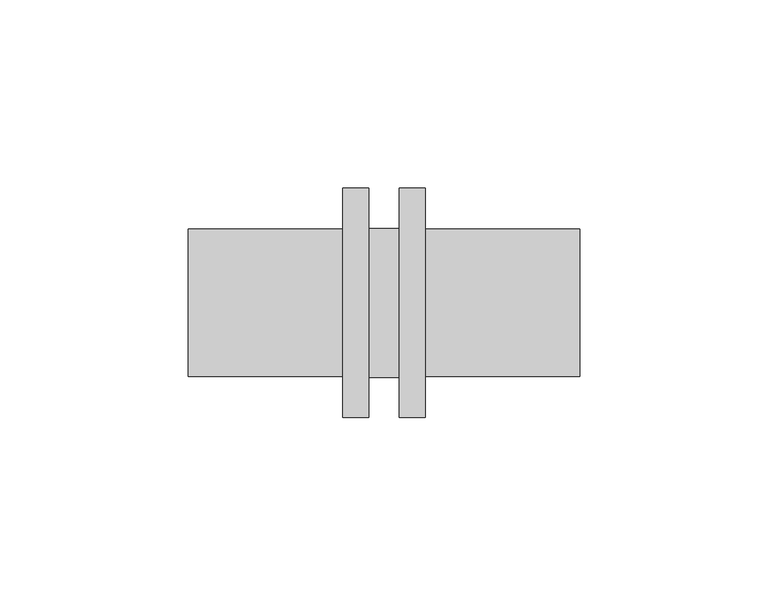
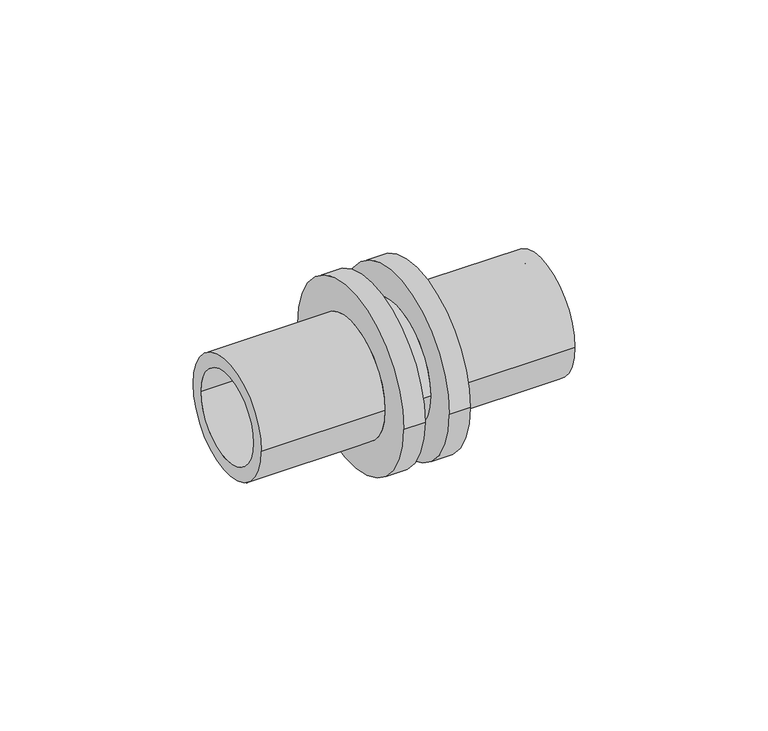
"""IFC4 building model written with IfcOpenShell, lengths in millimetres: pipe fitting geometry, RAUTITAN_Union_LX : RTI LX U DE."""

from ifc_helpers import new_model, si_unit, frame, origin, place, context, project, spatial, polyline, circle_curve, source, transform, mapped, element, save
from ifc_brep_helpers import plane_surface, cylinder_surface, revolved_surface, advanced_brep


def pipe_fitting_a2244846(model_context):
    return source(origin(), model_context, "Body", "AdvancedBrep", [
        advanced_brep(
        [(-52.0, 15.0, 0.0), (-52.0, -15.0, 0.0), (52.0, -15.0, 0.0), (52.0, 15.0, 0.0), (-11.0, 19.6, 0.0), (-11.0, -19.6, 0.0), (-52.0, -19.6, 0.0), (-52.0, 19.6, 0.0), (-4.0, 30.5, 0.0), (-4.0, -30.5, 0.0), (-11.0, -30.5, 0.0), (-11.0, 30.5, 0.0), (4.0, 19.8, 0.0), (4.0, -19.8, 0.0), (-4.0, -19.8, 0.0), (-4.0, 19.8, 0.0), (11.0, 30.5, 0.0), (11.0, -30.5, 0.0), (4.0, -30.5, 0.0), (4.0, 30.5, 0.0), (52.0, 19.6, 0.0), (52.0, -19.6, 0.0), (11.0, -19.6, 0.0), (11.0, 19.6, 0.0)],
        [
            (0, 1, circle_curve(frame((-52.0, 0.0, 0.0), z_axis=(-1.0, 0.0, 0.0), x_axis=(0.0, -1.0, 0.0)), 15.0)),
            (1, 2),
            (2, 3, circle_curve(frame((52.0, 0.0, 0.0), z_axis=(1.0, 0.0, 0.0), x_axis=(0.0, -1.0, 0.0)), 15.0)),
            (3, 0),
            (4, 5, circle_curve(frame((-11.0, 0.0, 0.0), z_axis=(-1.0, 0.0, 0.0), x_axis=(0.0, -1.0, 0.0)), 19.6)),
            (5, 6),
            (6, 7, circle_curve(frame((-52.0, 0.0, 0.0), z_axis=(1.0, 0.0, 0.0), x_axis=(0.0, -1.0, 0.0)), 19.6)),
            (7, 4),
            (8, 9, circle_curve(frame((-4.0, 0.0, 0.0), z_axis=(-1.0, 0.0, 0.0), x_axis=(0.0, -1.0, 0.0)), 30.5)),
            (9, 10),
            (10, 11, circle_curve(frame((-11.0, 0.0, 0.0), z_axis=(1.0, 0.0, 0.0), x_axis=(0.0, -1.0, 0.0)), 30.5)),
            (11, 8),
            (12, 13, circle_curve(frame((4.0, 0.0, 0.0), z_axis=(-1.0, 0.0, 0.0), x_axis=(0.0, -1.0, 0.0)), 19.8)),
            (13, 14),
            (14, 15, circle_curve(frame((-4.0, 0.0, 0.0), z_axis=(1.0, 0.0, 0.0), x_axis=(0.0, -1.0, 0.0)), 19.8)),
            (15, 12),
            (16, 17, circle_curve(frame((11.0, 0.0, 0.0), z_axis=(-1.0, 0.0, 0.0), x_axis=(0.0, -1.0, 0.0)), 30.5)),
            (17, 18),
            (18, 19, circle_curve(frame((4.0, 0.0, 0.0), z_axis=(1.0, 0.0, 0.0), x_axis=(0.0, -1.0, 0.0)), 30.5)),
            (19, 16),
            (20, 21, circle_curve(frame((52.0, 0.0, 0.0), z_axis=(-1.0, 0.0, 0.0), x_axis=(0.0, -1.0, 0.0)), 19.6)),
            (21, 22),
            (22, 23, circle_curve(frame((11.0, 0.0, 0.0), z_axis=(1.0, 0.0, 0.0), x_axis=(0.0, -1.0, 0.0)), 19.6)),
            (23, 20),
            (1, 0, circle_curve(frame((-52.0, 0.0, 0.0), z_axis=(-1.0, 0.0, 0.0), x_axis=(0.0, 1.0, 0.0)), 15.0)),
            (3, 2, circle_curve(frame((52.0, 0.0, 0.0), z_axis=(1.0, 0.0, 0.0), x_axis=(0.0, 1.0, 0.0)), 15.0)),
            (6, 7, circle_curve(frame((-52.0, 0.0, 0.0), z_axis=(-1.0, 0.0, 0.0), x_axis=(0.0, 1.0, 0.0)), 19.6)),
            (5, 4, circle_curve(frame((-11.0, 0.0, 0.0), z_axis=(-1.0, 0.0, 0.0), x_axis=(0.0, 1.0, 0.0)), 19.6)),
            (10, 11, circle_curve(frame((-11.0, 0.0, 0.0), z_axis=(-1.0, 0.0, 0.0), x_axis=(0.0, 1.0, 0.0)), 30.5)),
            (9, 8, circle_curve(frame((-4.0, 0.0, 0.0), z_axis=(-1.0, 0.0, 0.0), x_axis=(0.0, 1.0, 0.0)), 30.5)),
            (14, 15, circle_curve(frame((-4.0, 0.0, 0.0), z_axis=(-1.0, 0.0, 0.0), x_axis=(0.0, 1.0, 0.0)), 19.8)),
            (13, 12, circle_curve(frame((4.0, 0.0, 0.0), z_axis=(-1.0, 0.0, 0.0), x_axis=(0.0, 1.0, 0.0)), 19.8)),
            (18, 19, circle_curve(frame((4.0, 0.0, 0.0), z_axis=(-1.0, 0.0, 0.0), x_axis=(0.0, 1.0, 0.0)), 30.5)),
            (17, 16, circle_curve(frame((11.0, 0.0, 0.0), z_axis=(-1.0, 0.0, 0.0), x_axis=(0.0, 1.0, 0.0)), 30.5)),
            (22, 23, circle_curve(frame((11.0, 0.0, 0.0), z_axis=(-1.0, 0.0, 0.0), x_axis=(0.0, 1.0, 0.0)), 19.6)),
            (21, 20, circle_curve(frame((52.0, 0.0, 0.0), z_axis=(-1.0, 0.0, 0.0), x_axis=(0.0, 1.0, 0.0)), 19.6)),
        ],
        [
            revolved_surface(polyline([(52.0, -15.0, 0.0), (-52.0, -15.0, 0.0)]), (0.0, 0.0, 0.0), (1.0, 0.0, 0.0)),
            cylinder_surface(frame((0.0, 0.0, 0.0), z_axis=(1.0, 0.0, 0.0), x_axis=(0.0, -1.0, 0.0)), 19.6),
            cylinder_surface(frame((0.0, 0.0, 0.0), z_axis=(1.0, 0.0, 0.0), x_axis=(0.0, -1.0, 0.0)), 30.5),
            cylinder_surface(frame((0.0, 0.0, 0.0), z_axis=(1.0, 0.0, 0.0), x_axis=(0.0, -1.0, 0.0)), 19.8),
            revolved_surface(polyline([(52.0, 15.0, 0.0), (-52.0, 15.0, 0.0)]), (0.0, 0.0, 0.0), (1.0, 0.0, 0.0)),
            plane_surface(frame((-52.0, 0.0, 0.0), z_axis=(-1.0, 0.0, 0.0), x_axis=(0.0, 1.0, 0.0))),
            cylinder_surface(frame((0.0, 0.0, 0.0), z_axis=(1.0, 0.0, 0.0), x_axis=(0.0, 1.0, 0.0)), 19.6),
            plane_surface(frame((-11.0, 0.0, 0.0), z_axis=(-1.0, 0.0, 0.0), x_axis=(0.0, 1.0, 0.0))),
            cylinder_surface(frame((0.0, 0.0, 0.0), z_axis=(1.0, 0.0, 0.0), x_axis=(0.0, 1.0, 0.0)), 30.5),
            plane_surface(frame((-4.0, 0.0, 0.0), z_axis=(1.0, 0.0, 0.0), x_axis=(0.0, 1.0, 0.0))),
            cylinder_surface(frame((0.0, 0.0, 0.0), z_axis=(1.0, 0.0, 0.0), x_axis=(0.0, 1.0, 0.0)), 19.8),
            plane_surface(frame((4.0, 0.0, 0.0), z_axis=(-1.0, 0.0, 0.0), x_axis=(0.0, 1.0, 0.0))),
            plane_surface(frame((11.0, 0.0, 0.0), z_axis=(1.0, 0.0, 0.0), x_axis=(0.0, 1.0, 0.0))),
            plane_surface(frame((52.0, 0.0, 0.0), z_axis=(1.0, 0.0, 0.0), x_axis=(0.0, 1.0, 0.0))),
        ],
        [
            (0, [[1, 2, 3, 4]]),
            (1, [[5, 6, 7, 8]]),
            (2, [[9, 10, 11, 12]]),
            (3, [[13, 14, 15, 16]]),
            (2, [[17, 18, 19, 20]]),
            (1, [[21, 22, 23, 24]]),
            (4, [[25, -4, 26, -2]]),
            (5, [[27, -7], [-25, -1]]),
            (6, [[28, -8, -27, -6]]),
            (7, [[29, -11], [-28, -5]]),
            (8, [[30, -12, -29, -10]]),
            (9, [[-30, -9], [31, -15]]),
            (10, [[32, -16, -31, -14]]),
            (11, [[33, -19], [-32, -13]]),
            (8, [[34, -20, -33, -18]]),
            (12, [[-34, -17], [35, -23]]),
            (6, [[36, -24, -35, -22]]),
            (13, [[-36, -21], [-26, -3]]),
        ],
    ),
    ])


if __name__ == "__main__":
    model = new_model("IFC4")
    model_context = context("Model", 3, world=origin())
    ifc_project = project(units=[si_unit("LENGTHUNIT", "METRE", prefix="MILLI")], contexts=[model_context])
    site = spatial("IfcSite", under=ifc_project)
    building = spatial("IfcBuilding", under=site)
    placement = place(None, origin())
    pipe_fitting_shape = pipe_fitting_a2244846(model_context)
    element("IfcPipeFitting", 1, ObjectType="RAUTITAN_Union_LX : RTI LX U DE", at=placement, inside=building, context=model_context, shape_type="MappedRepresentation", body=[
        mapped(pipe_fitting_shape, transform((0.0, 0.0, 0.0), x_axis=(1.0, 0.0, 0.0), y_axis=(0.0, 1.0, 0.0), z_axis=(0.0, 0.0, 1.0))),
    ])
    save(model, "model.ifc")
